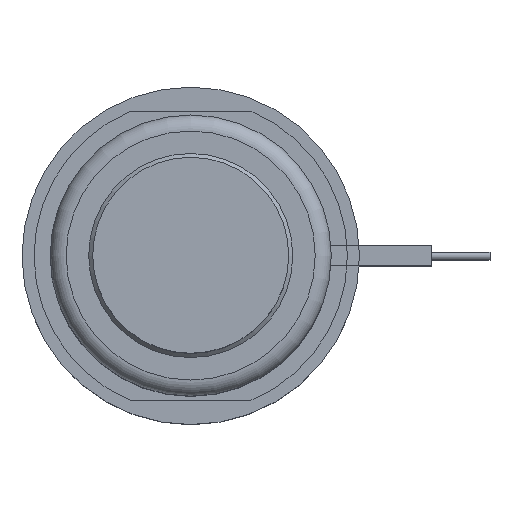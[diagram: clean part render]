
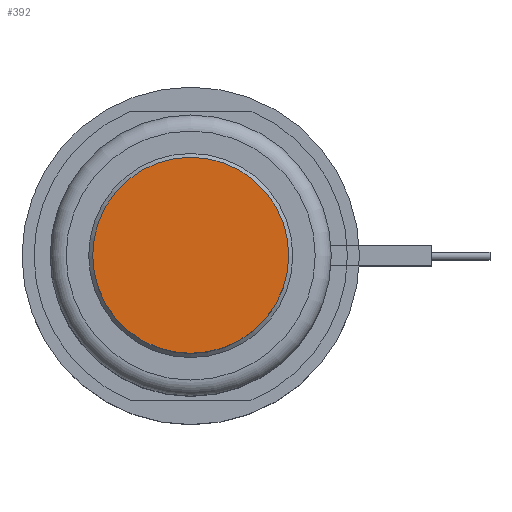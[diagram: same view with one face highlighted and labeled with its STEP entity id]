
A CAD part, top view. The second image highlights one B-rep face of the part: STEP entity #392.
In plain terms, the highlighted planar face has unit normal (0, 0, 1).
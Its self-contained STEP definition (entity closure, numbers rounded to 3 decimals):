
#291=CIRCLE('',#1397,12.2);
#392=ADVANCED_FACE('',(#507),#447,.F.);
#447=PLANE('',#1398);
#507=FACE_OUTER_BOUND('',#628,.T.);
#628=EDGE_LOOP('',(#894));
#894=ORIENTED_EDGE('',*,*,#1149,.F.);
#1015=VERTEX_POINT('',#2198);
#1149=EDGE_CURVE('',#1015,#1015,#291,.T.);
#1397=AXIS2_PLACEMENT_3D('',#2197,#1747,#1748);
#1398=AXIS2_PLACEMENT_3D('',#2199,#1749,#1750);
#1747=DIRECTION('',(0.,0.,-1.));
#1748=DIRECTION('',(-1.,0.,0.));
#1749=DIRECTION('',(0.,0.,-1.));
#1750=DIRECTION('',(-1.,0.,0.));
#2197=CARTESIAN_POINT('',(0.,0.,18.));
#2198=CARTESIAN_POINT('',(-12.2,0.,18.));
#2199=CARTESIAN_POINT('',(0.,0.,18.));
